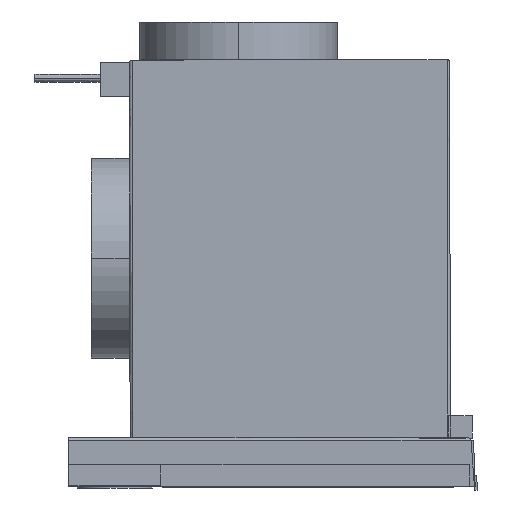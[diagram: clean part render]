
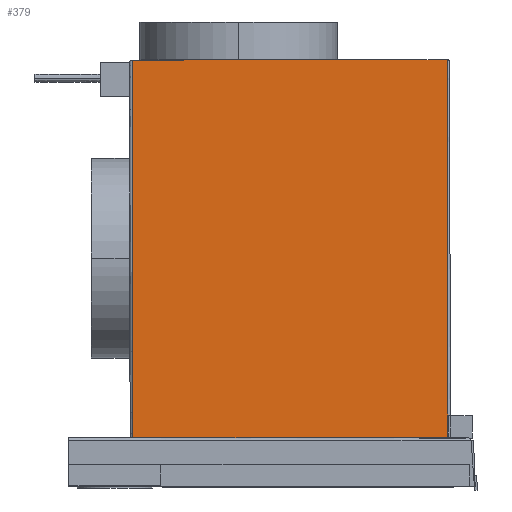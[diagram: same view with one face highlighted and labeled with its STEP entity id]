
A CAD part, front view. The second image highlights one B-rep face of the part: STEP entity #379.
In plain terms, the highlighted free-form (B-spline) face has degree [1, 1] with [2, 2] control points.
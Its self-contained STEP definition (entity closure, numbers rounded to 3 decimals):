
#85=(
BOUNDED_CURVE()
B_SPLINE_CURVE(1,(#3156,#3157),.UNSPECIFIED.,.F.,.F.)
B_SPLINE_CURVE_WITH_KNOTS((2,2),(143.95,431.85),.UNSPECIFIED.)
CURVE()
GEOMETRIC_REPRESENTATION_ITEM()
RATIONAL_B_SPLINE_CURVE((1.,1.))
REPRESENTATION_ITEM('')
);
#86=(
BOUNDED_CURVE()
B_SPLINE_CURVE(1,(#3160,#3161),.UNSPECIFIED.,.F.,.F.)
B_SPLINE_CURVE_WITH_KNOTS((2,2),(143.95,431.85),.UNSPECIFIED.)
CURVE()
GEOMETRIC_REPRESENTATION_ITEM()
RATIONAL_B_SPLINE_CURVE((1.,1.))
REPRESENTATION_ITEM('')
);
#379=ADVANCED_FACE('',(#492),#1524,.T.);
#492=FACE_OUTER_BOUND('',#605,.T.);
#605=EDGE_LOOP('',(#1031,#1032,#1033,#1034));
#1031=ORIENTED_EDGE('',*,*,#1277,.T.);
#1032=ORIENTED_EDGE('',*,*,#1278,.F.);
#1033=ORIENTED_EDGE('',*,*,#1279,.F.);
#1034=ORIENTED_EDGE('',*,*,#1272,.T.);
#1272=EDGE_CURVE('',#1428,#1427,#1686,.T.);
#1277=EDGE_CURVE('',#1427,#1423,#85,.T.);
#1278=EDGE_CURVE('',#1432,#1423,#1689,.T.);
#1279=EDGE_CURVE('',#1428,#1432,#86,.T.);
#1423=VERTEX_POINT('',#3275);
#1427=VERTEX_POINT('',#3279);
#1428=VERTEX_POINT('',#3280);
#1432=VERTEX_POINT('',#3284);
#1524=B_SPLINE_SURFACE_WITH_KNOTS('',1,1,((#3232,#3233),(#3234,#3235)),.UNSPECIFIED.,
.F.,.F.,.F.,(2,2),(2,2),(0.008,0.992),(0.,1.),
.UNSPECIFIED.);
#1686=B_SPLINE_CURVE_WITH_KNOTS('',1,(#3144,#3145),.UNSPECIFIED.,.F.,.F.,
(2,2),(0.008,0.992),.UNSPECIFIED.);
#1689=B_SPLINE_CURVE_WITH_KNOTS('',1,(#3158,#3159),.UNSPECIFIED.,.F.,.F.,
(2,2),(0.008,0.992),.UNSPECIFIED.);
#3144=CARTESIAN_POINT('',(48.447,-251.423,36.001));
#3145=CARTESIAN_POINT('',(286.759,-251.423,36.371));
#3156=CARTESIAN_POINT('',(286.759,-251.423,36.371));
#3157=CARTESIAN_POINT('',(286.312,-251.423,324.27));
#3158=CARTESIAN_POINT('',(48.,-251.423,323.901));
#3159=CARTESIAN_POINT('',(286.312,-251.423,324.27));
#3160=CARTESIAN_POINT('',(48.447,-251.423,36.001));
#3161=CARTESIAN_POINT('',(48.,-251.423,323.901));
#3232=CARTESIAN_POINT('',(48.447,-251.423,36.001));
#3233=CARTESIAN_POINT('',(48.,-251.423,323.901));
#3234=CARTESIAN_POINT('',(286.759,-251.423,36.371));
#3235=CARTESIAN_POINT('',(286.312,-251.423,324.27));
#3275=CARTESIAN_POINT('',(286.312,-251.423,324.27));
#3279=CARTESIAN_POINT('',(286.759,-251.423,36.371));
#3280=CARTESIAN_POINT('',(48.447,-251.423,36.001));
#3284=CARTESIAN_POINT('',(48.,-251.423,323.901));
